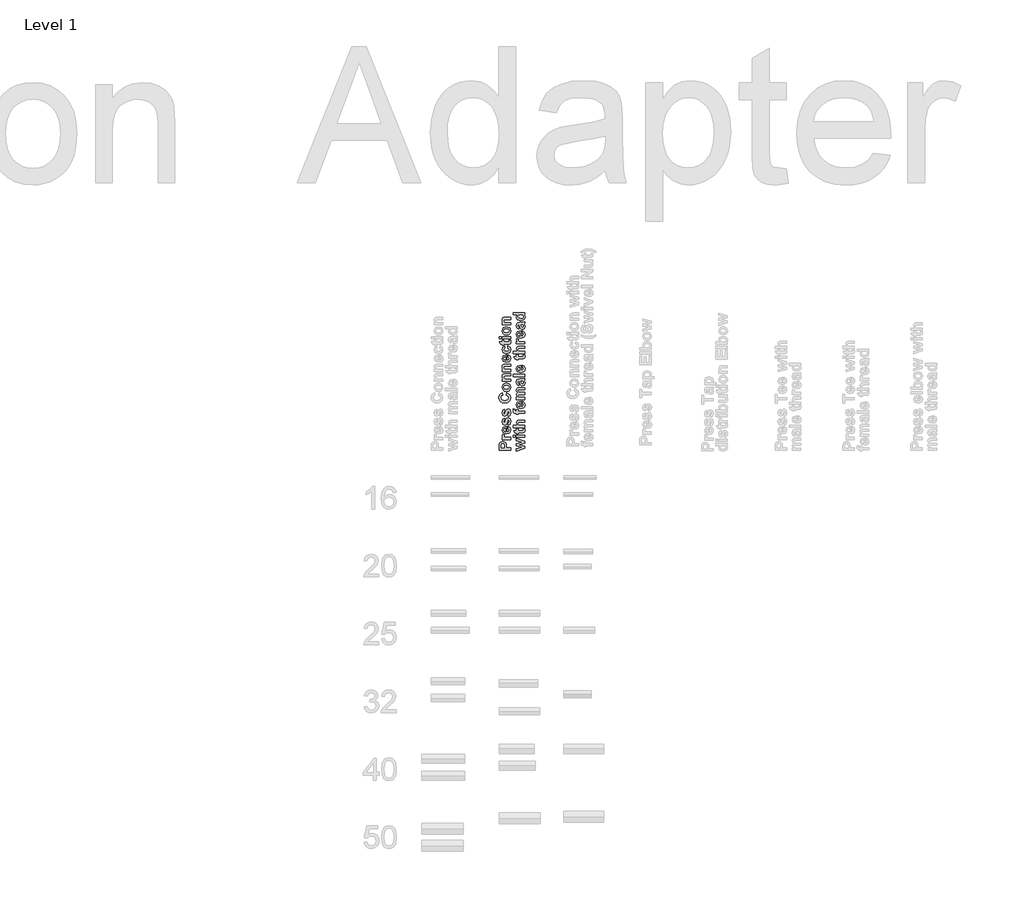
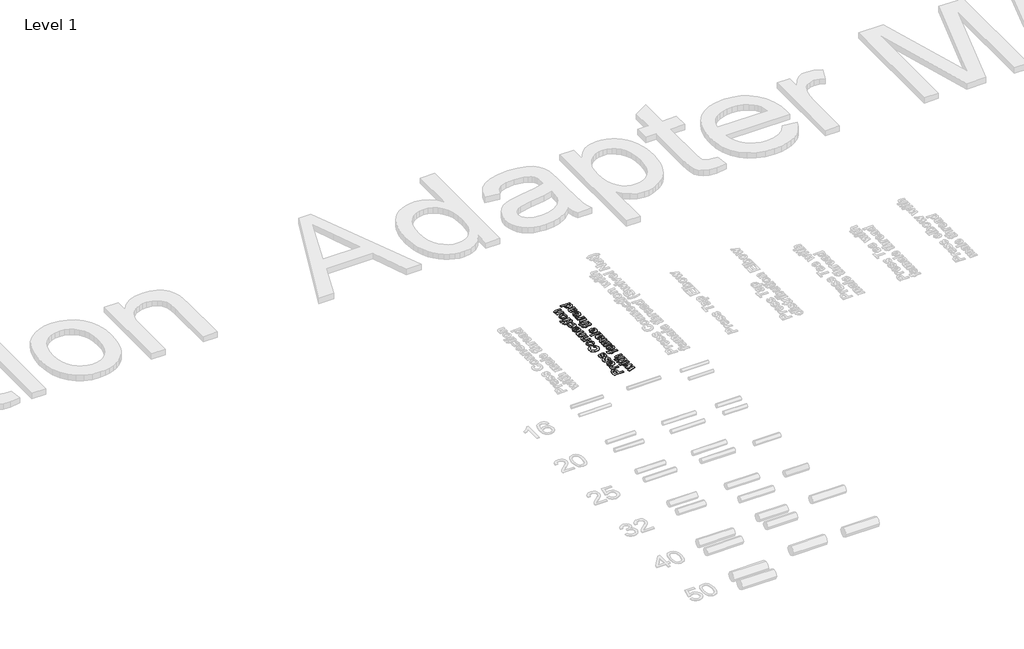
# One storey, part 42 of 58: 1 proxy.
"""IFC4 building model written with IfcOpenShell, lengths in millimetres."""

from ifc_helpers import new_model, si_unit, frame, origin, place, context, project, spatial, polyline, outline, extrude, element, save

model = new_model("IFC4")

# Units and contexts
model_context = context("Model", 3, world=origin())
ifc_project = project(units=[si_unit("LENGTHUNIT", "METRE", prefix="MILLI")], contexts=[model_context])

# Site, building, storey
site = spatial("IfcSite", under=ifc_project)
building = spatial("IfcBuilding", under=site)
storey = spatial("IfcBuildingStorey", under=building, Name="Level 1", Elevation=27.3876384)

# Proxy
placement = place(None, origin())
element("IfcBuildingElementProxy", 1, Name="50mm Arial", ObjectType="50mm Arial", at=placement, inside=storey, context=model_context, shape_type="SweptSolid", body=[
    extrude(outline(polyline([(29719.1417262, 30406.1759681), (29668.1287562, 30406.1759681), (29668.1287562, 30422.6109503), (29668.8878778, 30434.7948516), (29673.8537981, 30442.1013968), (29683.7287046, 30445.0429929), (29691.5792869, 30443.3159913), (29696.5768373, 30438.9257382), (29698.9870483, 30433.516997), (29699.7082138, 30422.6995145), (29699.7082138, 30415.8927243), (29719.1417262, 30415.8927243), (29719.1417262, 30406.1759681)]), holes=[polyline([(29677.0357827, 30415.8927243), (29690.8011873, 30415.8927243), (29690.8011873, 30421.9277409), (29690.0420657, 30430.638661), (29687.6571588, 30434.0800121), (29683.8805289, 30435.3262367), (29679.5155798, 30433.5739311), (29677.3647354, 30429.1520479), (29677.0357827, 30421.2192274), (29677.0357827, 30415.8927243)])]), frame((0.0, 0.0, 27.3876384), z_axis=(0.0, 0.0, 1.0), x_axis=(1.0, 0.0, 0.0)), (0.0, 0.0, 1.0), 2.0),
    extrude(outline(polyline([(29719.1417262, 30462.8570459), (29719.1417262, 30453.1402897), (29681.8941608, 30453.1402897), (29681.8941608, 30462.8570459), (29687.0814916, 30462.8570459), (29682.2420915, 30466.741218), (29681.0844311, 30470.6633461), (29683.1340594, 30476.6224505), (29692.3826906, 30473.7883966), (29690.8011873, 30469.2842753), (29691.9082396, 30465.8619022), (29695.8999539, 30463.6604496), (29707.995291, 30462.8570459), (29719.1417262, 30462.8570459)])), frame((0.0, 0.0, 27.3876384), z_axis=(0.0, 0.0, 1.0), x_axis=(1.0, 0.0, 0.0)), (0.0, 0.0, 1.0), 2.0),
    extrude(outline(polyline([(29707.8055106, 30501.7240707), (29709.42497, 30511.4408269), (29717.2629003, 30505.6461988), (29719.9514559, 30495.7396622), (29718.3667896, 30487.5506382), (29713.6127907, 30481.8097813), (29700.7962881, 30478.2419099), (29686.32237, 30482.9737677), (29681.0844311, 30494.9425846), (29686.4615423, 30507.7590872), (29702.9471325, 30512.2505566), (29702.9471325, 30487.9586661), (29710.1081794, 30490.2486828), (29712.6638887, 30495.7017062), (29711.5125543, 30499.4340539), (29707.8055106, 30501.7240707)]), holes=[polyline([(29697.2790248, 30502.5338004), (29690.643037, 30500.3703039), (29688.3719982, 30495.3601015), (29690.7632312, 30490.1474666), (29697.2790248, 30488.1231424), (29697.2790248, 30502.5338004)])]), frame((0.0, 0.0, 27.3876384), z_axis=(0.0, 0.0, 1.0), x_axis=(1.0, 0.0, 0.0)), (0.0, 0.0, 1.0), 2.0),
    extrude(outline(polyline([(29708.6152403, 30515.4894753), (29706.9957809, 30525.2062315), (29711.2215577, 30527.6923546), (29712.6638887, 30532.9366195), (29711.2848179, 30538.5161631), (29708.7038045, 30539.7813658), (29706.8819127, 30539.1108084), (29705.604058, 30535.9351498), (29700.8468962, 30521.3726675), (29692.4839068, 30517.1089346), (29684.3739579, 30520.7653702), (29681.0844311, 30532.1142378), (29683.7413566, 30542.9823284), (29691.610917, 30547.8786626), (29693.2303763, 30538.1619064), (29689.6245488, 30536.2894065), (29688.3719982, 30532.3672784), (29689.4347685, 30527.7492888), (29691.4084846, 30526.8256908), (29693.1671162, 30527.7492888), (29695.8873019, 30536.3463406), (29700.2269469, 30546.61346), (29707.527166, 30549.4981219), (29716.2886942, 30545.3166273), (29719.9514559, 30532.9366195), (29716.9023175, 30521.1639091), (29708.6152403, 30515.4894753)])), frame((0.0, 0.0, 27.3876384), z_axis=(0.0, 0.0, 1.0), x_axis=(1.0, 0.0, 0.0)), (0.0, 0.0, 1.0), 2.0),
    extrude(outline(polyline([(29708.6152403, 30554.3565), (29706.9957809, 30564.0732562), (29711.2215577, 30566.5593794), (29712.6638887, 30571.8036443), (29711.2848179, 30577.3831879), (29708.7038045, 30578.6483905), (29706.8819127, 30577.9778331), (29705.604058, 30574.8021745), (29700.8468962, 30560.2396923), (29692.4839068, 30555.9759594), (29684.3739579, 30559.632395), (29681.0844311, 30570.9812626), (29683.7413566, 30581.8493532), (29691.610917, 30586.7456873), (29693.2303763, 30577.0289312), (29689.6245488, 30575.1564313), (29688.3719982, 30571.2343031), (29689.4347685, 30566.6163135), (29691.4084846, 30565.6927156), (29693.1671162, 30566.6163135), (29695.8873019, 30575.2133654), (29700.2269469, 30585.4804847), (29707.527166, 30588.3651467), (29716.2886942, 30584.183652), (29719.9514559, 30571.8036443), (29716.9023175, 30560.0309338), (29708.6152403, 30554.3565)])), frame((0.0, 0.0, 27.3876384), z_axis=(0.0, 0.0, 1.0), x_axis=(1.0, 0.0, 0.0)), (0.0, 0.0, 1.0), 2.0),
    extrude(outline(polyline([(29699.7082138, 30649.9046026), (29702.9471325, 30659.6213588), (29715.1500119, 30651.9668829), (29719.1417262, 30638.3786066), (29717.4368656, 30629.1015084), (29712.322284, 30621.6399758), (29704.2502912, 30616.7246636), (29693.6731973, 30615.0862262), (29682.5583922, 30616.7388972), (29674.2396849, 30621.69691), (29669.0491911, 30629.3498044), (29667.3190265, 30639.0871201), (29668.7455425, 30647.6145858), (29673.0250904, 30654.3707679), (29682.7038905, 30659.6213588), (29684.3233498, 30649.9046026), (29678.3958755, 30645.8749322), (29676.226053, 30638.4165627), (29680.1671592, 30628.5796123), (29692.9267277, 30624.8029824), (29706.2619634, 30628.465744), (29710.2346997, 30637.9990458), (29707.6979684, 30645.4321113), (29699.7082138, 30649.9046026)])), frame((0.0, 0.0, 27.3876384), z_axis=(0.0, 0.0, 1.0), x_axis=(1.0, 0.0, 0.0)), (0.0, 0.0, 1.0), 2.0),
    extrude(outline(polyline([(29699.9865584, 30665.2894665), (29690.5038647, 30667.6870255), (29683.5009681, 30674.4748376), (29681.0844311, 30684.280158), (29686.5627585, 30698.0012805), (29700.4167273, 30703.3467616), (29714.4035423, 30697.9443464), (29719.9514559, 30684.3560702), (29717.6424611, 30674.6835961), (29710.867301, 30667.6870255), (29699.9865584, 30665.2894665)]), holes=[polyline([(29700.5179435, 30675.0062227), (29709.5325122, 30677.6947783), (29712.6638887, 30684.3307661), (29709.5325122, 30690.9541019), (29700.4420313, 30693.6300054), (29691.5033747, 30690.9541019), (29688.3719982, 30684.3307661), (29691.5033747, 30677.6947783), (29700.5179435, 30675.0062227)])]), frame((0.0, 0.0, 27.3876384), z_axis=(0.0, 0.0, 1.0), x_axis=(1.0, 0.0, 0.0)), (0.0, 0.0, 1.0), 2.0),
    extrude(outline(polyline([(29719.1417262, 30743.8332457), (29719.1417262, 30734.1164896), (29699.9992104, 30734.1164896), (29692.1296501, 30733.5091923), (29689.3588563, 30731.5228242), (29688.3719982, 30728.2206453), (29689.7826992, 30723.7734581), (29693.527699, 30721.0785765), (29702.1500549, 30720.351085), (29719.1417262, 30720.351085), (29719.1417262, 30710.6343288), (29681.8941608, 30710.6343288), (29681.8941608, 30720.351085), (29687.2586199, 30720.351085), (29682.6279783, 30725.5668828), (29681.0844311, 30731.9782971), (29682.2610695, 30737.6211008), (29685.2595998, 30741.4926209), (29689.3904864, 30743.3208387), (29696.0138221, 30743.8332457), (29719.1417262, 30743.8332457)])), frame((0.0, 0.0, 27.3876384), z_axis=(0.0, 0.0, 1.0), x_axis=(1.0, 0.0, 0.0)), (0.0, 0.0, 1.0), 2.0),
    extrude(outline(polyline([(29719.1417262, 30786.7489189), (29719.1417262, 30777.0321627), (29699.9992104, 30777.0321627), (29692.1296501, 30776.4248655), (29689.3588563, 30774.4384973), (29688.3719982, 30771.1363185), (29689.7826992, 30766.6891312), (29693.527699, 30763.9942496), (29702.1500549, 30763.2667581), (29719.1417262, 30763.2667581), (29719.1417262, 30753.5500019), (29681.8941608, 30753.5500019), (29681.8941608, 30763.2667581), (29687.2586199, 30763.2667581), (29682.6279783, 30768.482556), (29681.0844311, 30774.8939703), (29682.2610695, 30780.536774), (29685.2595998, 30784.4082941), (29689.3904864, 30786.2365119), (29696.0138221, 30786.7489189), (29719.1417262, 30786.7489189)])), frame((0.0, 0.0, 27.3876384), z_axis=(0.0, 0.0, 1.0), x_axis=(1.0, 0.0, 0.0)), (0.0, 0.0, 1.0), 2.0),
    extrude(outline(polyline([(29707.8055106, 30817.5186469), (29709.42497, 30827.235403), (29717.2629003, 30821.440775), (29719.9514559, 30811.5342384), (29718.3667896, 30803.3452144), (29713.6127907, 30797.6043575), (29700.7962881, 30794.0364861), (29686.32237, 30798.7683439), (29681.0844311, 30810.7371608), (29686.4615423, 30823.5536634), (29702.9471325, 30828.0451327), (29702.9471325, 30803.7532423), (29710.1081794, 30806.043259), (29712.6638887, 30811.4962823), (29711.5125543, 30815.2286301), (29707.8055106, 30817.5186469)]), holes=[polyline([(29697.2790248, 30818.3283765), (29690.643037, 30816.16488), (29688.3719982, 30811.1546776), (29690.7632312, 30805.9420428), (29697.2790248, 30803.9177186), (29697.2790248, 30818.3283765)])]), frame((0.0, 0.0, 27.3876384), z_axis=(0.0, 0.0, 1.0), x_axis=(1.0, 0.0, 0.0)), (0.0, 0.0, 1.0), 2.0),
    extrude(outline(polyline([(29692.4206467, 30866.1024278), (29694.040106, 30856.3856716), (29689.7953512, 30854.3170653), (29688.3719982, 30850.1229186), (29691.0415758, 30844.6572432), (29699.9612543, 30842.620267), (29709.7918788, 30844.7394814), (29712.6638887, 30850.4265672), (29711.0254513, 30854.7978423), (29705.3763216, 30857.1954013), (29706.9957809, 30866.9121575), (29716.6809071, 30861.3136359), (29719.9514559, 30850.2114828), (29714.8020812, 30837.6037386), (29700.5558996, 30832.9035108), (29686.2148278, 30837.5721085), (29681.0844311, 30850.2114828), (29683.8868549, 30860.5734923), (29692.4206467, 30866.1024278)])), frame((0.0, 0.0, 27.3876384), z_axis=(0.0, 0.0, 1.0), x_axis=(1.0, 0.0, 0.0)), (0.0, 0.0, 1.0), 2.0),
    extrude(outline(polyline([(29681.8941608, 30892.0137776), (29689.1817279, 30892.0137776), (29689.1817279, 30884.7262105), (29705.1612371, 30884.7262105), (29710.8103669, 30884.947621), (29712.1388296, 30885.9534571), (29712.6638887, 30887.863913), (29711.7276388, 30892.4186425), (29718.6356451, 30892.8235073), (29719.9514559, 30884.8653828), (29719.04051, 30879.9563966), (29716.6872331, 30876.7491079), (29712.777757, 30875.325755), (29705.7052743, 30875.0094543), (29689.1817279, 30875.0094543), (29689.1817279, 30870.1510762), (29681.8941608, 30870.1510762), (29681.8941608, 30875.0094543), (29674.6065936, 30875.0094543), (29668.9384859, 30884.7262105), (29681.8941608, 30884.7262105), (29681.8941608, 30892.0137776)])), frame((0.0, 0.0, 27.3876384), z_axis=(0.0, 0.0, 1.0), x_axis=(1.0, 0.0, 0.0)), (0.0, 0.0, 1.0), 2.0),
    extrude(outline(polyline([(29677.0357827, 30897.6818854), (29668.1287562, 30897.6818854), (29668.1287562, 30907.3986416), (29677.0357827, 30907.3986416), (29677.0357827, 30897.6818854)])), frame((0.0, 0.0, 27.3876384), z_axis=(0.0, 0.0, 1.0), x_axis=(1.0, 0.0, 0.0)), (0.0, 0.0, 1.0), 2.0),
    extrude(outline(polyline([(29719.1417262, 30897.6818854), (29681.8941608, 30897.6818854), (29681.8941608, 30907.3986416), (29719.1417262, 30907.3986416), (29719.1417262, 30897.6818854)])), frame((0.0, 0.0, 27.3876384), z_axis=(0.0, 0.0, 1.0), x_axis=(1.0, 0.0, 0.0)), (0.0, 0.0, 1.0), 2.0),
    extrude(outline(polyline([(29699.9865584, 30914.6862088), (29690.5038647, 30917.0837677), (29683.5009681, 30923.8715798), (29681.0844311, 30933.6769002), (29686.5627585, 30947.3980227), (29700.4167273, 30952.7435038), (29714.4035423, 30947.3410886), (29719.9514559, 30933.7528124), (29717.6424611, 30924.0803383), (29710.867301, 30917.0837677), (29699.9865584, 30914.6862088)]), holes=[polyline([(29700.5179435, 30924.4029649), (29709.5325122, 30927.0915205), (29712.6638887, 30933.7275083), (29709.5325122, 30940.3508441), (29700.4420313, 30943.0267476), (29691.5033747, 30940.3508441), (29688.3719982, 30933.7275083), (29691.5033747, 30927.0915205), (29700.5179435, 30924.4029649)])]), frame((0.0, 0.0, 27.3876384), z_axis=(0.0, 0.0, 1.0), x_axis=(1.0, 0.0, 0.0)), (0.0, 0.0, 1.0), 2.0),
    extrude(outline(polyline([(29719.1417262, 30993.229988), (29719.1417262, 30983.5132318), (29699.9992104, 30983.5132318), (29692.1296501, 30982.9059345), (29689.3588563, 30980.9195664), (29688.3719982, 30977.6173875), (29689.7826992, 30973.1702003), (29693.527699, 30970.4753187), (29702.1500549, 30969.7478272), (29719.1417262, 30969.7478272), (29719.1417262, 30960.031071), (29681.8941608, 30960.031071), (29681.8941608, 30969.7478272), (29687.2586199, 30969.7478272), (29682.6279783, 30974.963625), (29681.0844311, 30981.3750393), (29682.2610695, 30987.0178431), (29685.2595998, 30990.8893631), (29689.3904864, 30992.7175809), (29696.0138221, 30993.229988), (29719.1417262, 30993.229988)])), frame((0.0, 0.0, 27.3876384), z_axis=(0.0, 0.0, 1.0), x_axis=(1.0, 0.0, 0.0)), (0.0, 0.0, 1.0), 2.0),
    extrude(outline(polyline([(29782.0974011, 30413.9443123), (29744.8498357, 30402.1273197), (29744.8498357, 30411.7302077), (29769.2555944, 30418.7267782), (29744.8498357, 30425.2678758), (29744.8498357, 30435.0099361), (29769.2555944, 30441.3992093), (29744.8498357, 30448.4210839), (29744.8498357, 30457.9986678), (29782.0974011, 30446.2069793), (29782.0974011, 30436.6673515), (29758.1471153, 30430.0629938), (29782.0974011, 30423.6231124), (29782.0974011, 30413.9443123)])), frame((0.0, 0.0, 27.3876384), z_axis=(0.0, 0.0, 1.0), x_axis=(1.0, 0.0, 0.0)), (0.0, 0.0, 1.0), 2.0),
    extrude(outline(polyline([(29739.9914576, 30462.8570459), (29731.0844311, 30462.8570459), (29731.0844311, 30472.5738021), (29739.9914576, 30472.5738021), (29739.9914576, 30462.8570459)])), frame((0.0, 0.0, 27.3876384), z_axis=(0.0, 0.0, 1.0), x_axis=(1.0, 0.0, 0.0)), (0.0, 0.0, 1.0), 2.0),
    extrude(outline(polyline([(29782.0974011, 30462.8570459), (29744.8498357, 30462.8570459), (29744.8498357, 30472.5738021), (29782.0974011, 30472.5738021), (29782.0974011, 30462.8570459)])), frame((0.0, 0.0, 27.3876384), z_axis=(0.0, 0.0, 1.0), x_axis=(1.0, 0.0, 0.0)), (0.0, 0.0, 1.0), 2.0),
    extrude(outline(polyline([(29744.8498357, 30500.1046113), (29752.1374028, 30500.1046113), (29752.1374028, 30492.8170442), (29768.116912, 30492.8170442), (29773.7660418, 30493.0384546), (29775.0945045, 30494.0442907), (29775.6195636, 30495.9547467), (29774.6833137, 30500.5094762), (29781.59132, 30500.914341), (29782.9071308, 30492.9562165), (29781.9961849, 30488.0472303), (29779.642908, 30484.8399416), (29775.7334319, 30483.4165886), (29768.6609492, 30483.100288), (29752.1374028, 30483.100288), (29752.1374028, 30478.2419099), (29744.8498357, 30478.2419099), (29744.8498357, 30483.100288), (29737.5622686, 30483.100288), (29731.8941608, 30492.8170442), (29744.8498357, 30492.8170442), (29744.8498357, 30500.1046113)])), frame((0.0, 0.0, 27.3876384), z_axis=(0.0, 0.0, 1.0), x_axis=(1.0, 0.0, 0.0)), (0.0, 0.0, 1.0), 2.0),
    extrude(outline(polyline([(29731.0844311, 30515.4894753), (29749.5563895, 30515.4894753), (29744.040106, 30526.6106064), (29745.2989826, 30532.6076669), (29748.5252493, 30536.6310112), (29752.8712204, 30538.478207), (29760.2600037, 30538.9716361), (29782.0974011, 30538.9716361), (29782.0974011, 30529.2548799), (29762.2843279, 30529.2548799), (29754.7880024, 30528.7108428), (29752.2639231, 30526.7877348), (29751.3276732, 30523.3463836), (29752.5296157, 30519.0953028), (29756.1480952, 30516.3561391), (29763.3091421, 30515.4894753), (29782.0974011, 30515.4894753), (29782.0974011, 30505.7727191), (29731.0844311, 30505.7727191), (29731.0844311, 30515.4894753)])), frame((0.0, 0.0, 27.3876384), z_axis=(0.0, 0.0, 1.0), x_axis=(1.0, 0.0, 0.0)), (0.0, 0.0, 1.0), 2.0),
    extrude(outline(polyline([(29744.8498357, 30564.0732562), (29744.8498357, 30568.9316343), (29742.1296501, 30568.9316343), (29735.3355119, 30569.9184924), (29731.6854023, 30573.5496239), (29730.2747014, 30580.2425458), (29731.4892959, 30588.3651467), (29738.1063057, 30587.1505522), (29737.5622686, 30582.6337788), (29738.5364746, 30579.5783144), (29742.2814744, 30578.6483905), (29744.8498357, 30578.6483905), (29744.8498357, 30585.9359577), (29752.1374028, 30585.9359577), (29752.1374028, 30578.6483905), (29782.0974011, 30578.6483905), (29782.0974011, 30568.9316343), (29752.1374028, 30568.9316343), (29752.1374028, 30564.0732562), (29744.8498357, 30564.0732562)])), frame((0.0, 0.0, 27.3876384), z_axis=(0.0, 0.0, 1.0), x_axis=(1.0, 0.0, 0.0)), (0.0, 0.0, 1.0), 2.0),
    extrude(outline(polyline([(29770.7611855, 30612.6570372), (29772.3806449, 30622.3737934), (29780.2185752, 30616.5791653), (29782.9071308, 30606.6726287), (29781.3224645, 30598.4836047), (29776.5684656, 30592.7427478), (29763.751963, 30589.1748764), (29749.2780449, 30593.9067342), (29744.040106, 30605.8755511), (29749.4172172, 30618.6920537), (29765.9028074, 30623.1835231), (29765.9028074, 30598.8916326), (29773.0638543, 30601.1816493), (29775.6195636, 30606.6346727), (29774.4682292, 30610.3670204), (29770.7611855, 30612.6570372)]), holes=[polyline([(29760.2346997, 30613.4667669), (29753.5987119, 30611.3032704), (29751.3276732, 30606.293068), (29753.7189061, 30601.0804331), (29760.2346997, 30599.0561089), (29760.2346997, 30613.4667669)])]), frame((0.0, 0.0, 27.3876384), z_axis=(0.0, 0.0, 1.0), x_axis=(1.0, 0.0, 0.0)), (0.0, 0.0, 1.0), 2.0),
    extrude(outline(polyline([(29744.8498357, 30629.6613605), (29744.8498357, 30639.3781167), (29749.8347341, 30639.3781167), (29744.040106, 30650.2462073), (29745.463459, 30656.0598134), (29749.7714739, 30660.1021358), (29745.463459, 30665.2704885), (29744.040106, 30671.1979628), (29745.7038475, 30677.9667969), (29750.5938556, 30682.1166615), (29758.2989396, 30683.1035196), (29782.0974011, 30683.1035196), (29782.0974011, 30673.3867634), (29760.6522165, 30673.3867634), (29753.4532136, 30672.3999053), (29751.3276732, 30668.3259529), (29752.5992018, 30664.561975), (29756.3252235, 30662.0189177), (29764.0809157, 30661.2408181), (29782.0974011, 30661.2408181), (29782.0974011, 30651.5240619), (29761.5378584, 30651.5240619), (29754.4717017, 30651.0179809), (29752.1057728, 30649.4554556), (29751.3276732, 30646.5771197), (29752.5612457, 30642.6423395), (29756.1291171, 30640.1372383), (29763.8658312, 30639.3781167), (29782.0974011, 30639.3781167), (29782.0974011, 30629.6613605), (29744.8498357, 30629.6613605)])), frame((0.0, 0.0, 27.3876384), z_axis=(0.0, 0.0, 1.0), x_axis=(1.0, 0.0, 0.0)), (0.0, 0.0, 1.0), 2.0),
    extrude(outline(polyline([(29756.1860513, 30700.9175726), (29754.5665919, 30692.0105461), (29746.6211194, 30696.9005542), (29744.040106, 30707.2056296), (29745.6026313, 30716.4542609), (29749.5627155, 30720.7306457), (29758.3748518, 30721.9705443), (29769.8628917, 30721.9705443), (29777.0998507, 30722.4829514), (29782.0974011, 30724.3997334), (29782.0974011, 30714.6829772), (29779.0103067, 30713.7720313), (29781.6229501, 30708.2304438), (29782.9071308, 30702.3219475), (29779.7884063, 30693.5857233), (29771.9125199, 30690.3910867), (29766.2950203, 30691.8144397), (29762.5120644, 30695.806154), (29760.2220476, 30703.2075893), (29757.8055106, 30712.2537881), (29752.5802238, 30711.0455196), (29751.3276732, 30706.4971162), (29752.4030954, 30702.9672008), (29756.1860513, 30700.9175726)]), holes=[polyline([(29765.0930778, 30712.2537881), (29766.4405186, 30706.7754607), (29767.9777398, 30701.8664745), (29771.0774862, 30700.1078429), (29774.2721228, 30701.5185438), (29775.6195636, 30705.1053933), (29774.0507124, 30709.7486869), (29771.1407463, 30711.8995314), (29766.8517094, 30712.2537881), (29765.0930778, 30712.2537881)])]), frame((0.0, 0.0, 27.3876384), z_axis=(0.0, 0.0, 1.0), x_axis=(1.0, 0.0, 0.0)), (0.0, 0.0, 1.0), 2.0),
    extrude(outline(polyline([(29782.0974011, 30731.6873005), (29731.0844311, 30731.6873005), (29731.0844311, 30741.4040567), (29782.0974011, 30741.4040567), (29782.0974011, 30731.6873005)])), frame((0.0, 0.0, 27.3876384), z_axis=(0.0, 0.0, 1.0), x_axis=(1.0, 0.0, 0.0)), (0.0, 0.0, 1.0), 2.0),
    extrude(outline(polyline([(29770.7611855, 30772.1737846), (29772.3806449, 30781.8905408), (29780.2185752, 30776.0959128), (29782.9071308, 30766.1893762), (29781.3224645, 30758.0003522), (29776.5684656, 30752.2594953), (29763.751963, 30748.6916238), (29749.2780449, 30753.4234817), (29744.040106, 30765.3922985), (29749.4172172, 30778.2088012), (29765.9028074, 30782.7002705), (29765.9028074, 30758.40838), (29773.0638543, 30760.6983968), (29775.6195636, 30766.1514201), (29774.4682292, 30769.8837679), (29770.7611855, 30772.1737846)]), holes=[polyline([(29760.2346997, 30772.9835143), (29753.5987119, 30770.8200178), (29751.3276732, 30765.8098154), (29753.7189061, 30760.5971806), (29760.2346997, 30758.5728564), (29760.2346997, 30772.9835143)])]), frame((0.0, 0.0, 27.3876384), z_axis=(0.0, 0.0, 1.0), x_axis=(1.0, 0.0, 0.0)), (0.0, 0.0, 1.0), 2.0),
    extrude(outline(polyline([(29744.8498357, 30827.235403), (29752.1374028, 30827.235403), (29752.1374028, 30819.9478359), (29768.116912, 30819.9478359), (29773.7660418, 30820.1692464), (29775.0945045, 30821.1750825), (29775.6195636, 30823.0855384), (29774.6833137, 30827.6402679), (29781.59132, 30828.0451327), (29782.9071308, 30820.0870082), (29781.9961849, 30815.178022), (29779.642908, 30811.9707333), (29775.7334319, 30810.5473804), (29768.6609492, 30810.2310797), (29752.1374028, 30810.2310797), (29752.1374028, 30805.3727016), (29744.8498357, 30805.3727016), (29744.8498357, 30810.2310797), (29737.5622686, 30810.2310797), (29731.8941608, 30819.9478359), (29744.8498357, 30819.9478359), (29744.8498357, 30827.235403)])), frame((0.0, 0.0, 27.3876384), z_axis=(0.0, 0.0, 1.0), x_axis=(1.0, 0.0, 0.0)), (0.0, 0.0, 1.0), 2.0),
    extrude(outline(polyline([(29731.0844311, 30842.620267), (29749.5563895, 30842.620267), (29744.040106, 30853.7413981), (29745.2989826, 30859.7384586), (29748.5252493, 30863.7618029), (29752.8712204, 30865.6089988), (29760.2600037, 30866.1024278), (29782.0974011, 30866.1024278), (29782.0974011, 30856.3856716), (29762.2843279, 30856.3856716), (29754.7880024, 30855.8416345), (29752.2639231, 30853.9185265), (29751.3276732, 30850.4771753), (29752.5296157, 30846.2260945), (29756.1480952, 30843.4869308), (29763.3091421, 30842.620267), (29782.0974011, 30842.620267), (29782.0974011, 30832.9035108), (29731.0844311, 30832.9035108), (29731.0844311, 30842.620267)])), frame((0.0, 0.0, 27.3876384), z_axis=(0.0, 0.0, 1.0), x_axis=(1.0, 0.0, 0.0)), (0.0, 0.0, 1.0), 2.0),
    extrude(outline(polyline([(29782.0974011, 30885.5359402), (29782.0974011, 30875.819184), (29744.8498357, 30875.819184), (29744.8498357, 30885.5359402), (29750.0371665, 30885.5359402), (29745.1977664, 30889.4201123), (29744.040106, 30893.3422404), (29746.0897343, 30899.3013448), (29755.3383655, 30896.4672909), (29753.7568622, 30891.9631695), (29754.8639145, 30888.5407964), (29758.8556288, 30886.3393439), (29770.9509659, 30885.5359402), (29782.0974011, 30885.5359402)])), frame((0.0, 0.0, 27.3876384), z_axis=(0.0, 0.0, 1.0), x_axis=(1.0, 0.0, 0.0)), (0.0, 0.0, 1.0), 2.0),
    extrude(outline(polyline([(29770.7611855, 30924.4029649), (29772.3806449, 30934.1197211), (29780.2185752, 30928.3250931), (29782.9071308, 30918.4185565), (29781.3224645, 30910.2295325), (29776.5684656, 30904.4886756), (29763.751963, 30900.9208042), (29749.2780449, 30905.652662), (29744.040106, 30917.6214789), (29749.4172172, 30930.4379815), (29765.9028074, 30934.9294508), (29765.9028074, 30910.6375603), (29773.0638543, 30912.9275771), (29775.6195636, 30918.3806004), (29774.4682292, 30922.1129482), (29770.7611855, 30924.4029649)]), holes=[polyline([(29760.2346997, 30925.2126946), (29753.5987119, 30923.0491981), (29751.3276732, 30918.0389957), (29753.7189061, 30912.8263609), (29760.2346997, 30910.8020367), (29760.2346997, 30925.2126946)])]), frame((0.0, 0.0, 27.3876384), z_axis=(0.0, 0.0, 1.0), x_axis=(1.0, 0.0, 0.0)), (0.0, 0.0, 1.0), 2.0),
    extrude(outline(polyline([(29756.1860513, 30950.3143148), (29754.5665919, 30941.4072883), (29746.6211194, 30946.2972964), (29744.040106, 30956.6023719), (29745.6026313, 30965.8510031), (29749.5627155, 30970.127388), (29758.3748518, 30971.3672865), (29769.8628917, 30971.3672865), (29777.0998507, 30971.8796936), (29782.0974011, 30973.7964756), (29782.0974011, 30964.0797194), (29779.0103067, 30963.1687735), (29781.6229501, 30957.627186), (29782.9071308, 30951.7186897), (29779.7884063, 30942.9824656), (29771.9125199, 30939.7878289), (29766.2950203, 30941.2111819), (29762.5120644, 30945.2028962), (29760.2220476, 30952.6043315), (29757.8055106, 30961.6505303), (29752.5802238, 30960.4422618), (29751.3276732, 30955.8938584), (29752.4030954, 30952.363943), (29756.1860513, 30950.3143148)]), holes=[polyline([(29765.0930778, 30961.6505303), (29766.4405186, 30956.172203), (29767.9777398, 30951.2632168), (29771.0774862, 30949.5045851), (29774.2721228, 30950.915286), (29775.6195636, 30954.5021355), (29774.0507124, 30959.1454291), (29771.1407463, 30961.2962736), (29766.8517094, 30961.6505303), (29765.0930778, 30961.6505303)])]), frame((0.0, 0.0, 27.3876384), z_axis=(0.0, 0.0, 1.0), x_axis=(1.0, 0.0, 0.0)), (0.0, 0.0, 1.0), 2.0),
    extrude(outline(polyline([(29782.0974011, 31014.2829597), (29782.0974011, 31004.5662035), (29776.732942, 31004.5662035), (29781.3825616, 30999.4358069), (29782.9071308, 30993.4830285), (29777.7451041, 30983.0134767), (29763.3344461, 30978.6548537), (29748.9617442, 30983.0071507), (29744.040106, 30994.0144136), (29749.1388726, 31004.5662035), (29731.0844311, 31004.5662035), (29731.0844311, 31014.2829597), (29782.0974011, 31014.2829597)]), holes=[polyline([(29762.7651049, 30988.3716099), (29771.6468274, 30989.9910692), (29775.6195636, 30996.5321668), (29772.6400114, 31002.2255787), (29763.739311, 31004.5662035), (29754.2313132, 31002.2951648), (29751.3276732, 30996.4689067), (29754.1996831, 30990.6995827), (29762.7651049, 30988.3716099)])]), frame((0.0, 0.0, 27.3876384), z_axis=(0.0, 0.0, 1.0), x_axis=(1.0, 0.0, 0.0)), (0.0, 0.0, 1.0), 2.0),
])

save(model, "model.ifc")
